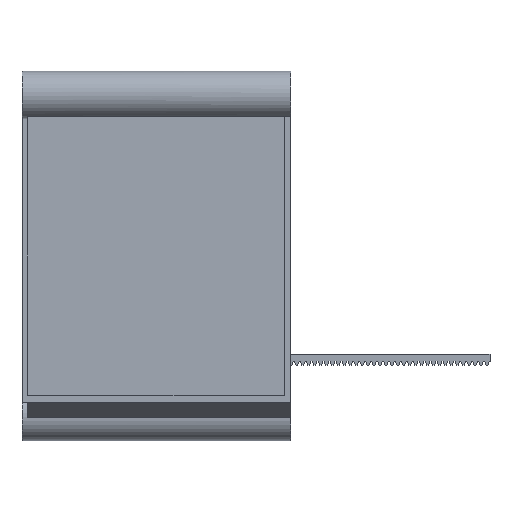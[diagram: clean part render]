
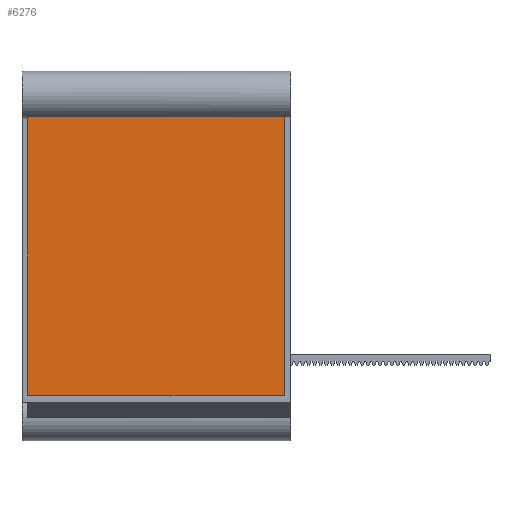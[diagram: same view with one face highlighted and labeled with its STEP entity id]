
A CAD part, front view. The second image highlights one B-rep face of the part: STEP entity #6276.
In plain terms, the highlighted planar face has unit normal (0, -1, 0).
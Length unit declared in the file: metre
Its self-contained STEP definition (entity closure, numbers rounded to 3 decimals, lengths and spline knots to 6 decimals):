
#627=ORIENTED_EDGE('',*,*,#2484,.F.);
#628=ORIENTED_EDGE('',*,*,#2485,.T.);
#629=ORIENTED_EDGE('',*,*,#2486,.T.);
#630=ORIENTED_EDGE('',*,*,#2487,.T.);
#631=ORIENTED_EDGE('',*,*,#2464,.T.);
#632=ORIENTED_EDGE('',*,*,#2488,.T.);
#633=ORIENTED_EDGE('',*,*,#2489,.T.);
#634=ORIENTED_EDGE('',*,*,#2490,.T.);
#635=ORIENTED_EDGE('',*,*,#2491,.T.);
#636=ORIENTED_EDGE('',*,*,#2492,.T.);
#2464=EDGE_CURVE('',#3395,#3394,#4023,.T.);
#2484=EDGE_CURVE('',#3410,#3411,#4036,.T.);
#2485=EDGE_CURVE('',#3410,#3412,#4037,.T.);
#2486=EDGE_CURVE('',#3412,#3413,#4038,.T.);
#2487=EDGE_CURVE('',#3413,#3411,#4039,.T.);
#2488=EDGE_CURVE('',#3394,#3414,#4040,.T.);
#2489=EDGE_CURVE('',#3414,#3415,#4041,.T.);
#2490=EDGE_CURVE('',#3415,#3416,#4042,.T.);
#2491=EDGE_CURVE('',#3416,#3417,#4043,.T.);
#2492=EDGE_CURVE('',#3417,#3395,#4044,.T.);
#3394=VERTEX_POINT('',#9633);
#3395=VERTEX_POINT('',#9635);
#3410=VERTEX_POINT('',#9676);
#3411=VERTEX_POINT('',#9677);
#3412=VERTEX_POINT('',#9679);
#3413=VERTEX_POINT('',#9681);
#3414=VERTEX_POINT('',#9684);
#3415=VERTEX_POINT('',#9686);
#3416=VERTEX_POINT('',#9688);
#3417=VERTEX_POINT('',#9690);
#4023=LINE('',#9634,#4948);
#4036=LINE('',#9675,#4961);
#4037=LINE('',#9678,#4962);
#4038=LINE('',#9680,#4963);
#4039=LINE('',#9682,#4964);
#4040=LINE('',#9683,#4965);
#4041=LINE('',#9685,#4966);
#4042=LINE('',#9687,#4967);
#4043=LINE('',#9689,#4968);
#4044=LINE('',#9691,#4969);
#4948=VECTOR('',#7503,1.);
#4961=VECTOR('',#7542,1.);
#4962=VECTOR('',#7543,1.);
#4963=VECTOR('',#7544,1.);
#4964=VECTOR('',#7545,1.);
#4965=VECTOR('',#7546,1.);
#4966=VECTOR('',#7547,1.);
#4967=VECTOR('',#7548,1.);
#4968=VECTOR('',#7549,1.);
#4969=VECTOR('',#7550,1.);
#5323=EDGE_LOOP('',(#627,#628,#629,#630));
#5324=EDGE_LOOP('',(#631,#632,#633,#634,#635,#636));
#5646=FACE_BOUND('',#5323,.T.);
#5647=FACE_BOUND('',#5324,.T.);
#5963=PLANE('',#6611);
#6276=ADVANCED_FACE('',(#5646,#5647),#5963,.F.);
#6611=AXIS2_PLACEMENT_3D('',#9674,#7540,#7541);
#7503=DIRECTION('',(1.,0.,0.));
#7540=DIRECTION('',(0.,1.,0.));
#7541=DIRECTION('',(1.,0.,0.));
#7542=DIRECTION('',(0.,0.,-1.));
#7543=DIRECTION('',(1.,0.,0.));
#7544=DIRECTION('',(0.,0.,-1.));
#7545=DIRECTION('',(-1.,0.,0.));
#7546=DIRECTION('',(0.,0.,1.));
#7547=DIRECTION('',(-1.,0.,0.));
#7548=DIRECTION('',(0.,0.,1.));
#7549=DIRECTION('',(-1.,0.,0.));
#7550=DIRECTION('',(0.,0.,-1.));
#9633=CARTESIAN_POINT('',(-0.0014,-0.008,-0.027051));
#9634=CARTESIAN_POINT('',(-0.02852,-0.008,-0.027051));
#9635=CARTESIAN_POINT('',(-0.05564,-0.008,-0.027051));
#9674=CARTESIAN_POINT('',(-0.02852,-0.008,0.002457));
#9675=CARTESIAN_POINT('',(-0.04792,-0.008,0.002457));
#9676=CARTESIAN_POINT('',(-0.04792,-0.008,0.032905));
#9677=CARTESIAN_POINT('',(-0.04792,-0.008,0.031905));
#9678=CARTESIAN_POINT('',(-0.02852,-0.008,0.032905));
#9679=CARTESIAN_POINT('',(-0.00792,-0.008,0.032905));
#9680=CARTESIAN_POINT('',(-0.00792,-0.008,0.002457));
#9681=CARTESIAN_POINT('',(-0.00792,-0.008,0.031905));
#9682=CARTESIAN_POINT('',(-0.02852,-0.008,0.031905));
#9683=CARTESIAN_POINT('',(-0.0014,-0.008,0.002459));
#9684=CARTESIAN_POINT('',(-0.0014,-0.008,0.031969));
#9685=CARTESIAN_POINT('',(-0.002155,-0.008,0.031969));
#9686=CARTESIAN_POINT('',(-0.00291,-0.008,0.031969));
#9687=CARTESIAN_POINT('',(-0.00291,-0.008,0.032724));
#9688=CARTESIAN_POINT('',(-0.00291,-0.008,0.033479));
#9689=CARTESIAN_POINT('',(0.0737,-0.008,0.033479));
#9690=CARTESIAN_POINT('',(-0.05564,-0.008,0.033479));
#9691=CARTESIAN_POINT('',(-0.05564,-0.008,-0.030512));
